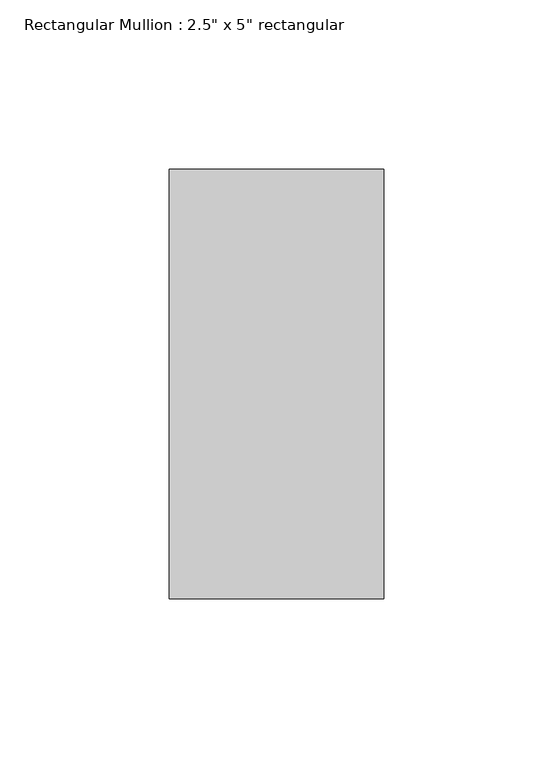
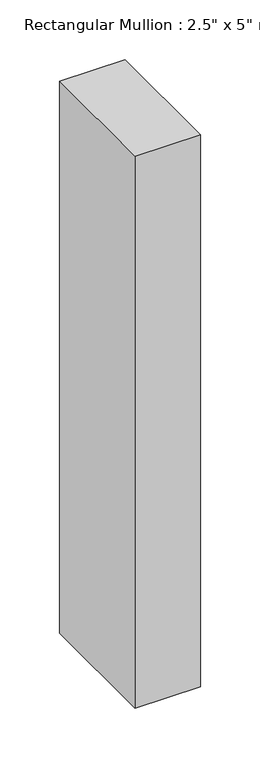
"""IFC4 building model written with IfcOpenShell, lengths in millimetres: member geometry."""

from ifc_helpers import new_model, si_unit, frame, origin, place, context, project, spatial, polyline, outline, extrude, source, transform, mapped, element, save


def member_aebc5ed7(model_context):
    return source(origin(), model_context, "Body", "SweptSolid", [
        extrude(outline(polyline([(31.75, 63.5), (31.75, -63.5), (-31.75, -63.5), (-31.75, 63.5), (31.75, 63.5)])), frame((0.0, 0.0, -566.0193937), z_axis=(0.0, 0.0, 1.0), x_axis=(1.0, 0.0, 0.0)), (0.0, 0.0, 1.0), 566.0193937),
    ])


if __name__ == "__main__":
    model = new_model("IFC4")
    model_context = context("Model", 3, world=origin())
    ifc_project = project(units=[si_unit("LENGTHUNIT", "METRE", prefix="MILLI")], contexts=[model_context])
    site = spatial("IfcSite", under=ifc_project)
    building = spatial("IfcBuilding", under=site)
    placement = place(None, origin())
    member_shape = member_aebc5ed7(model_context)
    element("IfcMember", 1, ObjectType="Rectangular Mullion : 2.5\" x 5\" rectangular", at=placement, inside=building, context=model_context, shape_type="MappedRepresentation", body=[
        mapped(member_shape, transform((0.0, 0.0, 0.0), x_axis=(1.0, 0.0, 0.0), y_axis=(0.0, 1.0, 0.0), z_axis=(0.0, 0.0, 1.0))),
    ])
    save(model, "model.ifc")
